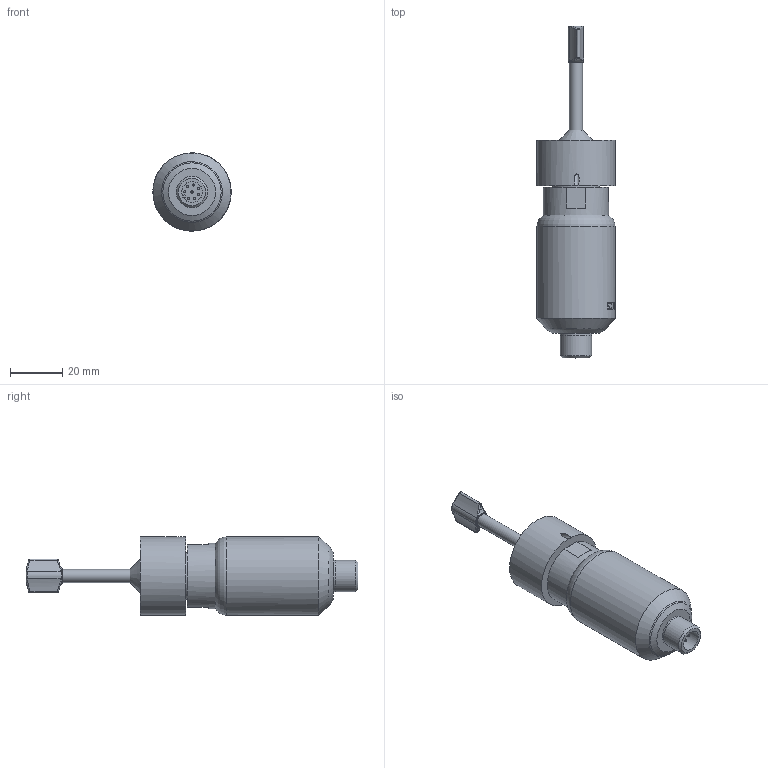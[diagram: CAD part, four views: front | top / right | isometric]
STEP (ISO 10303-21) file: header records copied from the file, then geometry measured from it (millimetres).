
FILE_DESCRIPTION(/* description */ ('Unknown'),/* implementation_level */ '2;1');
FILE_NAME(/* name */ 'SRD-X1-12G_HAW-12G-OTK',/* time_stamp */ '2024-06-07T11:36:16-05:00',/* author */ ('Unknown'),/* organization */ ('Unknown'),/* preprocessor_version */ 'ST-DEVELOPER v16.7',/* originating_system */ 'Solid Edge',/* authorisation */ 'Unknown');
FILE_SCHEMA (('AUTOMOTIVE_DESIGN {1 0 10303 214 3 1 1}'));
Length unit declared in the file: millimetre
Products named in the file (4): SRD-X1-12G_HAW-12G-OTK; SRD-X1-12G; HAW-12G-OTK; G0.5-Oring
Assembly tree (3 placements, depth 2):
  SRD-X1-12G_HAW-12G-OTK
    SRD-X1-12G
    HAW-12G-OTK
    G0.5-Oring
Bounding box: 30 x 127.35 x 30 mm (x, y, z)
Volume: 50364.6 mm3; surface area: 12767.8 mm2
Topology: 3 solids, 3 shells, 221 faces, 562 edges, 355 vertices
Faces by surface type: bspline 83, cylinder 55, plane 42, cone 17, torus 16, sphere 8
Full cylindrical faces by diameter (mm): 0.8 x8, 2 x1, 5.019 x1, 8 x1, 12 x2, 13.9 x1, 18 x1, 18.631 x1, 20.955 x1, 22 x1, 25 x1, 30 x2
Entity records: 11156 total; most frequent: CARTESIAN_POINT 5267, ORIENTED_EDGE 952, DIRECTION 630, EDGE_CURVE 476, VERTEX_POINT 327, FACE_BOUND 291, EDGE_LOOP 290, AXIS2_PLACEMENT_3D 245
